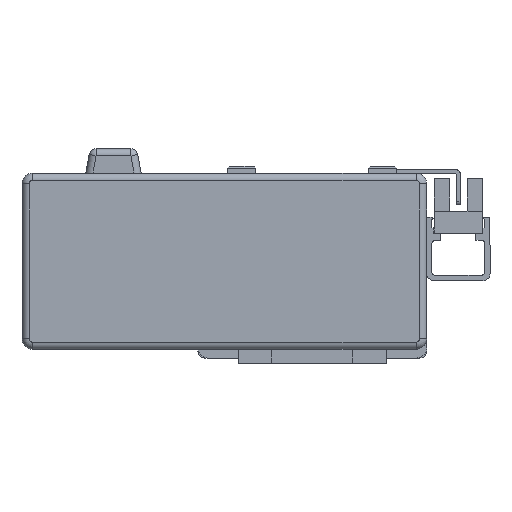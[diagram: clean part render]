
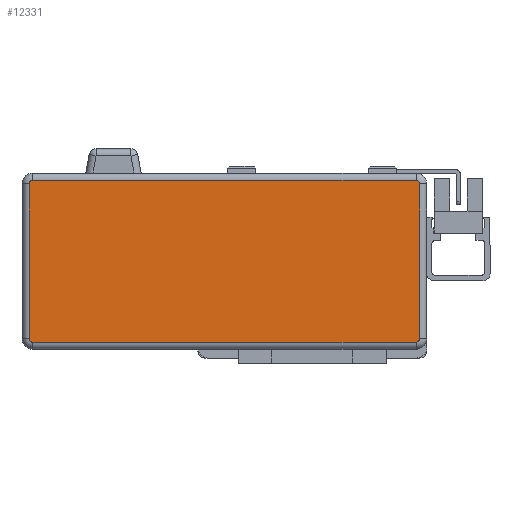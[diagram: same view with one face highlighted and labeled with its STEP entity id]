
A CAD part, left-side view. The second image highlights one B-rep face of the part: STEP entity #12331.
In plain terms, the highlighted planar face has unit normal (-1, 0, 0) as drawn and (0, 0, 1) by its records, which use the part's own axes.
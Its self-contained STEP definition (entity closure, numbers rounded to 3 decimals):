
#66 = EDGE_CURVE ( 'NONE', #9843, #10911, #74, .T. ) ;
#74 = LINE ( 'NONE', #25387, #13637 ) ;
#103 = CARTESIAN_POINT ( 'NONE',  ( 54.5, 23., 40. ) ) ;
#461 = ORIENTED_EDGE ( 'NONE', *, *, #66, .T. ) ;
#694 = CARTESIAN_POINT ( 'NONE',  ( 55.5, -22., 40. ) ) ;
#1840 = VECTOR ( 'NONE', #15302, 1000. ) ;
#2048 = DIRECTION ( 'NONE',  ( 0., 0., 1. ) ) ;
#2168 = VECTOR ( 'NONE', #8497, 1000. ) ;
#2996 = CIRCLE ( 'NONE', #8762, 1. ) ;
#3262 = LINE ( 'NONE', #15186, #1840 ) ;
#3327 = ORIENTED_EDGE ( 'NONE', *, *, #25304, .T. ) ;
#3381 = LINE ( 'NONE', #5846, #4318 ) ;
#4318 = VECTOR ( 'NONE', #5715, 1000. ) ;
#4616 = VERTEX_POINT ( 'NONE', #23726 ) ;
#5715 = DIRECTION ( 'NONE',  ( 1., 0., 0. ) ) ;
#5846 = CARTESIAN_POINT ( 'NONE',  ( 0., -23., 40. ) ) ;
#5990 = CIRCLE ( 'NONE', #14723, 1. ) ;
#6196 = AXIS2_PLACEMENT_3D ( 'NONE', #25131, #20632, #22599 ) ;
#6846 = CIRCLE ( 'NONE', #24242, 1. ) ;
#7028 = DIRECTION ( 'NONE',  ( 0., 0., 1. ) ) ;
#7417 = ORIENTED_EDGE ( 'NONE', *, *, #19835, .T. ) ;
#7904 = CARTESIAN_POINT ( 'NONE',  ( -55.5, 22., 40. ) ) ;
#7989 = EDGE_LOOP ( 'NONE', ( #3327, #16367, #24265, #18653, #25015, #14940, #461, #7417 ) ) ;
#8150 = VERTEX_POINT ( 'NONE', #20674 ) ;
#8237 = EDGE_CURVE ( 'NONE', #9612, #4616, #3262, .T. ) ;
#8428 = DIRECTION ( 'NONE',  ( 0., -1., 0. ) ) ;
#8497 = DIRECTION ( 'NONE',  ( 0., 1., 0. ) ) ;
#8762 = AXIS2_PLACEMENT_3D ( 'NONE', #21610, #9284, #23608 ) ;
#9105 = EDGE_CURVE ( 'NONE', #4616, #9843, #5990, .T. ) ;
#9284 = DIRECTION ( 'NONE',  ( 0., 0., 1. ) ) ;
#9612 = VERTEX_POINT ( 'NONE', #103 ) ;
#9843 = VERTEX_POINT ( 'NONE', #7904 ) ;
#10649 = CARTESIAN_POINT ( 'NONE',  ( 55.5, 0., 40. ) ) ;
#10853 = FACE_OUTER_BOUND ( 'NONE', #7989, .T. ) ;
#10911 = VERTEX_POINT ( 'NONE', #19465 ) ;
#11358 = CARTESIAN_POINT ( 'NONE',  ( 54.5, -23., 40. ) ) ;
#11374 = EDGE_CURVE ( 'NONE', #8150, #9612, #2996, .T. ) ;
#12331 = ADVANCED_FACE ( 'NONE', ( #10853 ), #16616, .F. ) ;
#13637 = VECTOR ( 'NONE', #8428, 1000. ) ;
#14696 = DIRECTION ( 'NONE',  ( -1., 0., 0. ) ) ;
#14723 = AXIS2_PLACEMENT_3D ( 'NONE', #21618, #25744, #18661 ) ;
#14940 = ORIENTED_EDGE ( 'NONE', *, *, #9105, .T. ) ;
#15186 = CARTESIAN_POINT ( 'NONE',  ( 0., 23., 40. ) ) ;
#15302 = DIRECTION ( 'NONE',  ( -1., 0., 0. ) ) ;
#16151 = VERTEX_POINT ( 'NONE', #11358 ) ;
#16367 = ORIENTED_EDGE ( 'NONE', *, *, #20186, .T. ) ;
#16616 = PLANE ( 'NONE',  #6196 ) ;
#16689 = CARTESIAN_POINT ( 'NONE',  ( -54.5, -22., 40. ) ) ;
#17863 = VERTEX_POINT ( 'NONE', #694 ) ;
#18653 = ORIENTED_EDGE ( 'NONE', *, *, #11374, .T. ) ;
#18661 = DIRECTION ( 'NONE',  ( -1., 0., 0. ) ) ;
#19465 = CARTESIAN_POINT ( 'NONE',  ( -55.5, -22., 40. ) ) ;
#19732 = CARTESIAN_POINT ( 'NONE',  ( -54.5, -23., 40. ) ) ;
#19835 = EDGE_CURVE ( 'NONE', #10911, #26622, #21302, .T. ) ;
#20186 = EDGE_CURVE ( 'NONE', #16151, #17863, #6846, .T. ) ;
#20632 = DIRECTION ( 'NONE',  ( 0., 0., -1. ) ) ;
#20674 = CARTESIAN_POINT ( 'NONE',  ( 55.5, 22., 40. ) ) ;
#20739 = LINE ( 'NONE', #10649, #2168 ) ;
#21302 = CIRCLE ( 'NONE', #25331, 1. ) ;
#21538 = CARTESIAN_POINT ( 'NONE',  ( 54.5, -22., 40. ) ) ;
#21610 = CARTESIAN_POINT ( 'NONE',  ( 54.5, 22., 40. ) ) ;
#21618 = CARTESIAN_POINT ( 'NONE',  ( -54.5, 22., 40. ) ) ;
#21622 = DIRECTION ( 'NONE',  ( -1., 0., 0. ) ) ;
#22599 = DIRECTION ( 'NONE',  ( -1., 0., 0. ) ) ;
#23608 = DIRECTION ( 'NONE',  ( -1., 0., 0. ) ) ;
#23726 = CARTESIAN_POINT ( 'NONE',  ( -54.5, 23., 40. ) ) ;
#24242 = AXIS2_PLACEMENT_3D ( 'NONE', #21538, #7028, #21622 ) ;
#24265 = ORIENTED_EDGE ( 'NONE', *, *, #26700, .T. ) ;
#25015 = ORIENTED_EDGE ( 'NONE', *, *, #8237, .T. ) ;
#25131 = CARTESIAN_POINT ( 'NONE',  ( 0., 0., 40. ) ) ;
#25304 = EDGE_CURVE ( 'NONE', #26622, #16151, #3381, .T. ) ;
#25331 = AXIS2_PLACEMENT_3D ( 'NONE', #16689, #2048, #14696 ) ;
#25387 = CARTESIAN_POINT ( 'NONE',  ( -55.5, 0., 40. ) ) ;
#25744 = DIRECTION ( 'NONE',  ( 0., 0., 1. ) ) ;
#26622 = VERTEX_POINT ( 'NONE', #19732 ) ;
#26700 = EDGE_CURVE ( 'NONE', #17863, #8150, #20739, .T. ) ;
